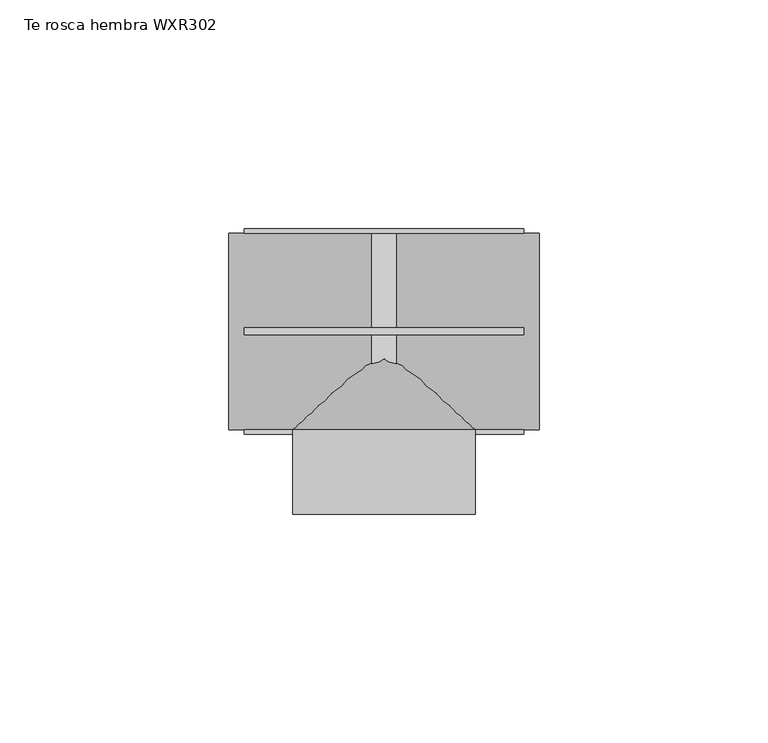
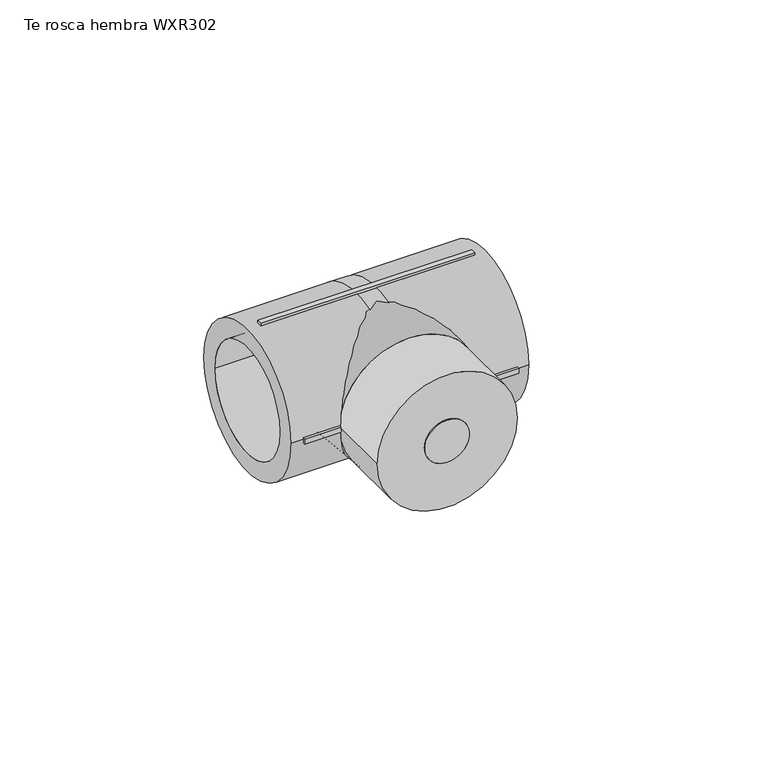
"""IFC4 building model written with IfcOpenShell, lengths in millimetres: pipe fitting geometry, EGB_VASEN_ PPR_Te rosca hembra WXR302 : Te rosca hembra WXR302."""

from ifc_helpers import new_model, si_unit, point, frame, origin, origin_2d, place, context, project, spatial, polyline, circle_curve, trimmed, segment, composite_curve, outline, extrude, source, transform, mapped, element, save
from ifc_brep_helpers import plane_surface, cylinder_surface, revolved_surface, advanced_brep


def te_rosca_hembra_wxr302_554fb1e6(model_context):
    return source(origin(), model_context, "Body", "SolidModel", [
        extrude(outline(composite_curve([segment(trimmed(circle_curve(origin_2d(), 6.35), [point((-6.35, 0.0))], [point((6.35, 0.0))], False, "CARTESIAN"), True, "CONTINUOUS"), segment(trimmed(circle_curve(origin_2d(), 6.35), [point((6.35, 0.0))], [point((-6.35, 0.0))], False, "CARTESIAN"), True, "CONTINUOUS")], self_intersect=False)), frame((0.0, -40.0, 0.0), z_axis=(0.0, 1.0, 0.0), x_axis=(0.0, 0.0, 1.0)), (0.0, 0.0, 1.0), 18.5),
        advanced_brep(
        [(2.72, -16.0, 0.0), (2.72, 16.0, 0.0), (-2.72, 16.0, 0.0), (-2.72, -16.0, 0.0), (-2.72, 21.5, 0.0), (2.72, 21.5, 0.0), (2.72, -21.5, 0.0), (-2.72, -21.5, 0.0), (34.0, -21.5, 0.0), (34.0, 21.5, 0.0), (34.0, -16.0, 0.0), (34.0, 16.0, 0.0), (-34.0, -21.5, 0.0), (-34.0, 21.5, 0.0), (-34.0, -16.0, 0.0), (-34.0, 16.0, 0.0)],
        [
            (0, 1, circle_curve(frame((2.72, 0.0, 0.0), z_axis=(1.0, 0.0, 0.0), x_axis=(0.0, 1.0, 0.0)), 16.0)),
            (1, 0, circle_curve(frame((2.72, 0.0, 0.0), z_axis=(1.0, 0.0, 0.0), x_axis=(0.0, 1.0, 0.0)), 16.0)),
            (2, 3, circle_curve(frame((-2.72, 0.0, 0.0), z_axis=(-1.0, 0.0, 0.0), x_axis=(0.0, 1.0, 0.0)), 16.0)),
            (3, 2, circle_curve(frame((-2.72, 0.0, 0.0), z_axis=(-1.0, 0.0, 0.0), x_axis=(0.0, 1.0, 0.0)), 16.0)),
            (4, 5),
            (5, 6, circle_curve(frame((2.72, 0.0, 0.0), z_axis=(-1.0, 0.0, 0.0), x_axis=(0.0, 0.0, -1.0)), 21.5)),
            (6, 7),
            (7, 4, circle_curve(frame((-2.72, 0.0, 0.0), z_axis=(1.0, 0.0, 0.0), x_axis=(0.0, 0.0, -1.0)), 21.5)),
            (4, 7, circle_curve(frame((-2.72, 0.0, 0.0), z_axis=(1.0, 0.0, 0.0), x_axis=(0.0, 0.0, 1.0)), 21.5)),
            (6, 5, circle_curve(frame((2.72, 0.0, 0.0), z_axis=(-1.0, 0.0, 0.0), x_axis=(0.0, 0.0, 1.0)), 21.5)),
            (8, 9, circle_curve(frame((34.0, 0.0, 0.0), z_axis=(1.0, 0.0, 0.0), x_axis=(0.0, 1.0, 0.0)), 21.5)),
            (9, 8, circle_curve(frame((34.0, 0.0, 0.0), z_axis=(1.0, 0.0, 0.0), x_axis=(0.0, 1.0, 0.0)), 21.5)),
            (10, 11, circle_curve(frame((34.0, 0.0, 0.0), z_axis=(-1.0, 0.0, 0.0), x_axis=(0.0, 1.0, 0.0)), 16.0)),
            (11, 10, circle_curve(frame((34.0, 0.0, 0.0), z_axis=(-1.0, 0.0, 0.0), x_axis=(0.0, 1.0, 0.0)), 16.0)),
            (9, 5),
            (6, 8),
            (11, 1),
            (0, 10),
            (12, 13, circle_curve(frame((-34.0, 0.0, 0.0), z_axis=(-1.0, 0.0, 0.0), x_axis=(0.0, 1.0, 0.0)), 21.5)),
            (13, 12, circle_curve(frame((-34.0, 0.0, 0.0), z_axis=(-1.0, 0.0, 0.0), x_axis=(0.0, 1.0, 0.0)), 21.5)),
            (14, 15, circle_curve(frame((-34.0, 0.0, 0.0), z_axis=(1.0, 0.0, 0.0), x_axis=(0.0, 1.0, 0.0)), 16.0)),
            (15, 14, circle_curve(frame((-34.0, 0.0, 0.0), z_axis=(1.0, 0.0, 0.0), x_axis=(0.0, 1.0, 0.0)), 16.0)),
            (12, 7),
            (4, 13),
            (14, 3),
            (2, 15),
        ],
        [
            plane_surface(frame((2.72, 0.0, 0.0), z_axis=(1.0, 0.0, 0.0), x_axis=(0.0, 0.0, -1.0))),
            plane_surface(frame((-2.72, 0.0, 0.0), z_axis=(-1.0, 0.0, 0.0), x_axis=(0.0, 0.0, -1.0))),
            cylinder_surface(frame((-2.72, 0.0, 0.0), z_axis=(1.0, 0.0, 0.0), x_axis=(0.0, 0.0, -1.0)), 21.5),
            cylinder_surface(frame((-2.72, 0.0, 0.0), z_axis=(1.0, 0.0, 0.0), x_axis=(0.0, 0.0, 1.0)), 21.5),
            plane_surface(frame((34.0, 0.0, 0.0), z_axis=(1.0, 0.0, 0.0), x_axis=(0.0, 0.0, 1.0))),
            cylinder_surface(frame((2.72, 0.0, 0.0), z_axis=(-1.0, 0.0, 0.0), x_axis=(0.0, 1.0, 0.0)), 21.5),
            revolved_surface(polyline([(34.0, 16.0, 0.0), (2.72, 16.0, 0.0)]), (2.72, 0.0, 0.0), (1.0, 0.0, 0.0)),
            plane_surface(frame((-34.0, 0.0, 0.0), z_axis=(-1.0, 0.0, 0.0), x_axis=(0.0, 0.0, 1.0))),
            cylinder_surface(frame((-34.0, 0.0, 0.0), z_axis=(-1.0, 0.0, 0.0), x_axis=(0.0, 1.0, 0.0)), 21.5),
            revolved_surface(polyline([(-2.719999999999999, 16.0, 0.0), (-34.0, 16.0, 0.0)]), (-34.0, 0.0, 0.0), (1.0, 0.0, 0.0)),
        ],
        [
            (0, [[1, 2]]),
            (1, [[3, 4]]),
            (2, [[5, 6, 7, 8]]),
            (3, [[-5, 9, -7, 10]]),
            (4, [[11, 12], [13, 14]]),
            (5, [[-12, 15, -10, 16]]),
            (5, [[-11, -16, -6, -15]]),
            (6, [[-14, 17, -1, 18]]),
            (6, [[-13, -18, -2, -17]]),
            (7, [[19, 20], [21, 22]]),
            (8, [[-19, 23, -9, 24]]),
            (8, [[-20, -24, -8, -23]]),
            (9, [[-21, 25, -3, 26]]),
            (9, [[-22, -26, -4, -25]]),
        ],
    ),
        extrude(outline(composite_curve([segment(trimmed(circle_curve(origin_2d(), 20.0), [point((0.0, 20.0))], [point((0.0, -20.0))], False, "CARTESIAN"), True, "CONTINUOUS"), segment(trimmed(circle_curve(origin_2d(), 20.0), [point((0.0, -20.0))], [point((0.0, 20.0))], False, "CARTESIAN"), True, "CONTINUOUS")], self_intersect=False), holes=[composite_curve([segment(trimmed(circle_curve(origin_2d(), 6.35), [point((0.0, 6.35))], [point((0.0, -6.35))], True, "CARTESIAN"), True, "CONTINUOUS"), segment(trimmed(circle_curve(origin_2d(), 6.35), [point((0.0, -6.35))], [point((0.0, 6.35))], True, "CARTESIAN"), True, "CONTINUOUS")], self_intersect=False)]), frame((0.0, -40.0, 0.0), z_axis=(0.0, 1.0, 0.0), x_axis=(0.0, 0.0, 1.0)), (0.0, 0.0, 1.0), 18.5),
        advanced_brep(
        [(21.5, 0.0, 0.0), (-21.5, 0.0, 0.0), (20.0, -21.5, 0.0), (-20.0, -21.5, 0.0)],
        [
            (0, 1, circle_curve(frame((0.0, 0.0, 0.0), z_axis=(0.0, 1.0, 0.0), x_axis=(1.0, 0.0, 0.0)), 21.5)),
            (1, 0, circle_curve(frame((0.0, 0.0, 0.0), z_axis=(0.0, 1.0, 0.0), x_axis=(-1.0, 0.0, 0.0)), 21.5)),
            (2, 3, circle_curve(frame((0.0, -21.5, 0.0), z_axis=(0.0, -1.0, 0.0), x_axis=(-1.0, 0.0, 0.0)), 20.0)),
            (3, 2, circle_curve(frame((0.0, -21.5, 0.0), z_axis=(0.0, -1.0, 0.0), x_axis=(1.0, 0.0, 0.0)), 20.0)),
            (3, 1),
            (0, 2),
        ],
        [
            plane_surface(frame((0.0, 0.0, 0.0), z_axis=(0.0, 1.0, 0.0), x_axis=(0.0, 0.0, -1.0))),
            plane_surface(frame((0.0, -21.5, 0.0), z_axis=(0.0, -1.0, 0.0), x_axis=(0.0, 0.0, -1.0))),
            revolved_surface(polyline([(-20.00000000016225, -21.5, 0.0), (-21.5, 0.0, 0.0)]), (0.0, -308.1666667, 0.0), (0.0, 1.0, 0.0)),
            revolved_surface(polyline([(20.00000000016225, -21.5, 0.0), (21.5, 0.0, 0.0)]), (0.0, -308.1666667, 0.0), (0.0, 1.0, 0.0)),
        ],
        [
            (0, [[1, 2]]),
            (1, [[3, 4]]),
            (2, [[-4, 5, -1, 6]]),
            (3, [[-3, -6, -2, -5]]),
        ],
    ),
        extrude(outline(polyline([(30.6, 0.75), (30.6, -0.75), (-30.6, -0.75), (-30.6, 0.75), (30.6, 0.75)])), frame((0.0, 0.0, 20.5), z_axis=(0.0, 0.0, 1.0), x_axis=(1.0, 0.0, 0.0)), (0.0, 0.0, 1.0), 2.0),
        extrude(outline(polyline([(30.6, 0.75), (30.6, -0.75), (-30.6, -0.75), (-30.6, 0.75), (30.6, 0.75)])), frame((0.0, 0.0, -22.5), z_axis=(0.0, 0.0, 1.0), x_axis=(1.0, 0.0, 0.0)), (0.0, 0.0, 1.0), 2.0),
        extrude(outline(polyline([(30.6, 22.5), (30.6, 20.5), (-30.6, 20.5), (-30.6, 22.5), (30.6, 22.5)])), frame((0.0, 0.0, -0.75), z_axis=(0.0, 0.0, 1.0), x_axis=(1.0, 0.0, 0.0)), (0.0, 0.0, 1.0), 1.5),
        extrude(outline(polyline([(30.6, -20.5), (30.6, -22.5), (-30.6, -22.5), (-30.6, -20.5), (30.6, -20.5)])), frame((0.0, 0.0, -0.75), z_axis=(0.0, 0.0, 1.0), x_axis=(1.0, 0.0, 0.0)), (0.0, 0.0, 1.0), 1.5),
    ])


if __name__ == "__main__":
    model = new_model("IFC4")
    model_context = context("Model", 3, world=origin())
    ifc_project = project(units=[si_unit("LENGTHUNIT", "METRE", prefix="MILLI")], contexts=[model_context])
    site = spatial("IfcSite", under=ifc_project)
    building = spatial("IfcBuilding", under=site)
    placement = place(None, origin())
    te_rosca_hembra_wxr302_shape = te_rosca_hembra_wxr302_554fb1e6(model_context)
    element("IfcPipeFitting", 1, ObjectType="EGB_VASEN_ PPR_Te rosca hembra WXR302 : Te rosca hembra WXR302", at=placement, inside=building, context=model_context, shape_type="MappedRepresentation", body=[
        mapped(te_rosca_hembra_wxr302_shape, transform((0.0, 0.0, 0.0), x_axis=(1.0, 0.0, 0.0), y_axis=(0.0, 1.0, 0.0), z_axis=(0.0, 0.0, 1.0))),
    ])
    save(model, "model.ifc")
